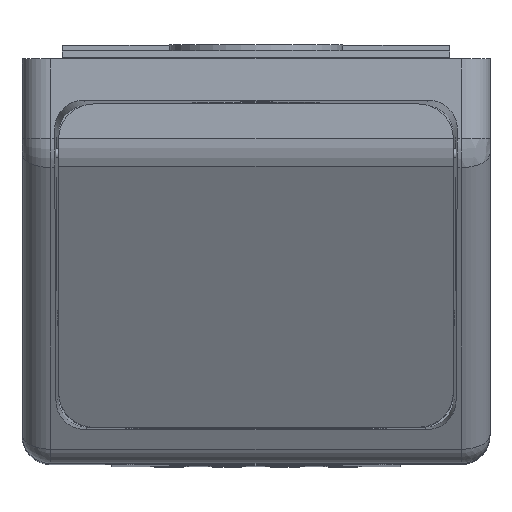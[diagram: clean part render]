
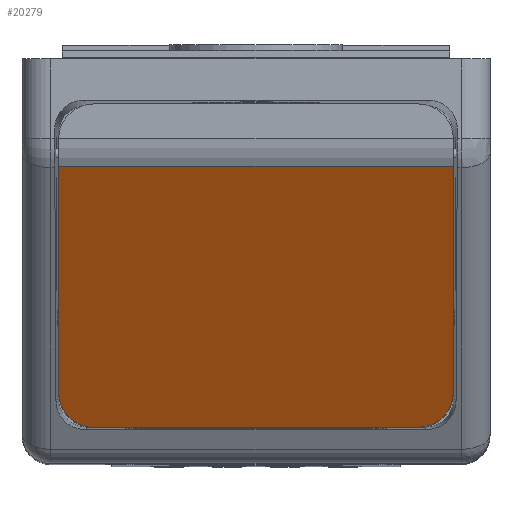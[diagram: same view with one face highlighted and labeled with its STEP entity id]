
A CAD part, top view. The second image highlights one B-rep face of the part: STEP entity #20279.
In plain terms, the highlighted planar face has unit normal (0, -0.5, 0.866).
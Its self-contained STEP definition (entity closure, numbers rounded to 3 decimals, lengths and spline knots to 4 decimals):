
#18108=CARTESIAN_POINT('',(-3.415,-1.545,5.2636));
#18109=CARTESIAN_POINT('',(-3.415,-1.6383,5.2097));
#18110=CARTESIAN_POINT('',(-3.3761,-1.7912,
5.1214));
#18111=CARTESIAN_POINT('',(-3.2572,-1.9682,
5.0193));
#18112=CARTESIAN_POINT('',(-3.1124,-2.076,
4.957));
#18113=CARTESIAN_POINT('',(-2.9611,-2.1315,
4.9249));
#18114=CARTESIAN_POINT('',(-2.8689,-2.145,4.9172));
#18115=CARTESIAN_POINT('',(-2.815,-2.145,4.9172));
#18120=DIRECTION('',(0.,0.866,0.5));
#18121=VECTOR('',#18120,4.5183);
#18122=CARTESIAN_POINT('',(-3.415,-1.545,5.2636));
#18123=LINE('',#18122,#18121);
#18127=DIRECTION('',(1.,0.,0.));
#18128=VECTOR('',#18127,6.83);
#18129=CARTESIAN_POINT('',(-3.415,2.3679,7.5227));
#18130=LINE('',#18129,#18128);
#18134=DIRECTION('',(0.,-0.866,-0.5));
#18135=VECTOR('',#18134,4.5183);
#18136=CARTESIAN_POINT('',(3.415,2.3679,7.5227));
#18137=LINE('',#18136,#18135);
#18141=CARTESIAN_POINT('',(2.815,-2.145,4.9172));
#18142=CARTESIAN_POINT('',(2.8689,-2.145,4.9172));
#18143=CARTESIAN_POINT('',(2.9611,-2.1315,
4.9249));
#18144=CARTESIAN_POINT('',(3.1124,-2.076,
4.957));
#18145=CARTESIAN_POINT('',(3.2572,-1.9682,
5.0193));
#18146=CARTESIAN_POINT('',(3.3761,-1.7912,
5.1214));
#18147=CARTESIAN_POINT('',(3.415,-1.6383,5.2097));
#18148=CARTESIAN_POINT('',(3.415,-1.545,5.2636));
#18153=DIRECTION('',(-1.,0.,0.));
#18154=VECTOR('',#18153,5.63);
#18155=CARTESIAN_POINT('',(2.815,-2.145,4.9172));
#18156=LINE('',#18155,#18154);
#19955=CARTESIAN_POINT('',(-3.415,2.3679,7.5227));
#19957=VERTEX_POINT('',#19955);
#19958=CARTESIAN_POINT('',(3.415,2.3679,7.5227));
#19960=VERTEX_POINT('',#19958);
#20006=VERTEX_POINT('',#18108);
#20007=VERTEX_POINT('',#18115);
#20008=VERTEX_POINT('',#18141);
#20009=VERTEX_POINT('',#18148);
#20262=CARTESIAN_POINT('',(4.05,2.6,7.6567));
#20263=DIRECTION('',(0.,-0.5,0.866));
#20264=DIRECTION('',(0.,-0.866,-0.5));
#20265=AXIS2_PLACEMENT_3D('',#20262,#20263,#20264);
#20266=PLANE('',#20265);
#20267=ORIENTED_EDGE('',*,*,#20255,.F.);
#20268=ORIENTED_EDGE('',*,*,#20160,.T.);
#20270=ORIENTED_EDGE('',*,*,#20269,.T.);
#20272=ORIENTED_EDGE('',*,*,#20271,.T.);
#20274=ORIENTED_EDGE('',*,*,#20273,.F.);
#20276=ORIENTED_EDGE('',*,*,#20275,.T.);
#20277=EDGE_LOOP('',(#20267,#20268,#20270,#20272,#20274,#20276));
#20278=FACE_OUTER_BOUND('',#20277,.F.);
#20279=ADVANCED_FACE('',(#20278),#20266,.T.);
#18116=B_SPLINE_CURVE_WITH_KNOTS('',3,(#18108,#18109,#18110,#18111,#18112,
#18113,#18114,#18115),.UNSPECIFIED.,.F.,.F.,(4,1,1,1,1,4),(0.,0.25,0.5,
0.75,0.875,1.),.UNSPECIFIED.);
#18149=B_SPLINE_CURVE_WITH_KNOTS('',3,(#18141,#18142,#18143,#18144,#18145,
#18146,#18147,#18148),.UNSPECIFIED.,.F.,.F.,(4,1,1,1,1,4),(0.,0.125,0.25,
0.5,0.75,1.),.UNSPECIFIED.);
#20160=EDGE_CURVE('',#20006,#19957,#18123,.T.);
#20255=EDGE_CURVE('',#20006,#20007,#18116,.T.);
#20269=EDGE_CURVE('',#19957,#19960,#18130,.T.);
#20271=EDGE_CURVE('',#19960,#20009,#18137,.T.);
#20273=EDGE_CURVE('',#20008,#20009,#18149,.T.);
#20275=EDGE_CURVE('',#20008,#20007,#18156,.T.);
